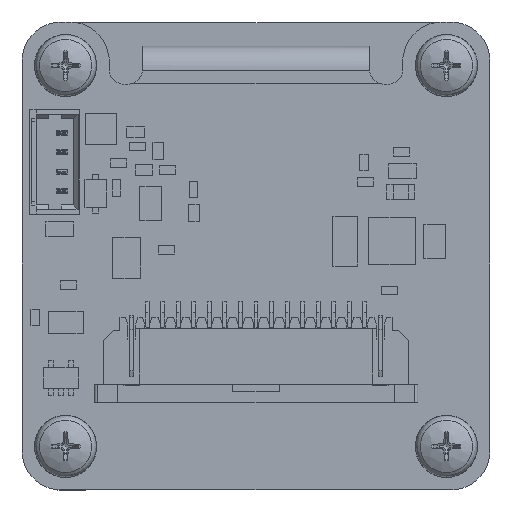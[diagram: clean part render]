
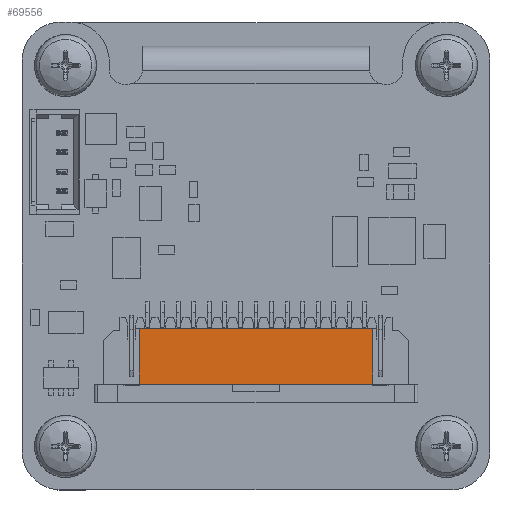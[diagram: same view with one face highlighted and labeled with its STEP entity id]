
A CAD part, top view. The second image highlights one B-rep face of the part: STEP entity #69556.
In plain terms, the highlighted planar face has unit normal (0, 0, 1).
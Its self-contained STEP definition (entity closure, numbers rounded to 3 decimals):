
#7178=LINE('',#101094,#16191);
#7179=LINE('',#101096,#16192);
#7180=LINE('',#101098,#16193);
#7181=LINE('',#101099,#16194);
#16191=VECTOR('',#83193,1.);
#16192=VECTOR('',#83194,1.);
#16193=VECTOR('',#83195,1.);
#16194=VECTOR('',#83196,1.);
#22806=PLANE('',#73630);
#26817=FACE_OUTER_BOUND('',#30468,.T.);
#30468=EDGE_LOOP('',(#57215,#57216,#57217,#57218));
#35875=VERTEX_POINT('',#101092);
#35876=VERTEX_POINT('',#101093);
#35877=VERTEX_POINT('',#101095);
#35878=VERTEX_POINT('',#101097);
#43498=EDGE_CURVE('',#35875,#35876,#7178,.T.);
#43499=EDGE_CURVE('',#35875,#35877,#7179,.T.);
#43500=EDGE_CURVE('',#35878,#35877,#7180,.T.);
#43501=EDGE_CURVE('',#35876,#35878,#7181,.T.);
#57215=ORIENTED_EDGE('',*,*,#43498,.F.);
#57216=ORIENTED_EDGE('',*,*,#43499,.T.);
#57217=ORIENTED_EDGE('',*,*,#43500,.F.);
#57218=ORIENTED_EDGE('',*,*,#43501,.F.);
#69556=ADVANCED_FACE('',(#26817),#22806,.F.);
#73630=AXIS2_PLACEMENT_3D('',#101091,#83191,#83192);
#83191=DIRECTION('center_axis',(0.,0.,-1.));
#83192=DIRECTION('ref_axis',(-1.,0.,0.));
#83193=DIRECTION('',(1.,0.,0.));
#83194=DIRECTION('',(0.,-1.,0.));
#83195=DIRECTION('',(-1.,0.,0.));
#83196=DIRECTION('',(0.,-1.,0.));
#101091=CARTESIAN_POINT('Origin',(24.8,5.55,2.713));
#101092=CARTESIAN_POINT('',(7.5,10.35,2.713));
#101093=CARTESIAN_POINT('',(22.5,10.35,2.713));
#101094=CARTESIAN_POINT('',(7.5,10.35,2.713));
#101095=CARTESIAN_POINT('',(7.5,6.75,2.713));
#101096=CARTESIAN_POINT('',(7.5,10.35,2.713));
#101097=CARTESIAN_POINT('',(22.5,6.75,2.713));
#101098=CARTESIAN_POINT('',(22.5,6.75,2.713));
#101099=CARTESIAN_POINT('',(22.5,10.35,2.713));
